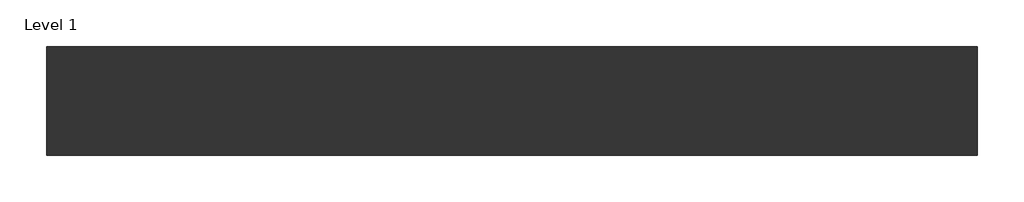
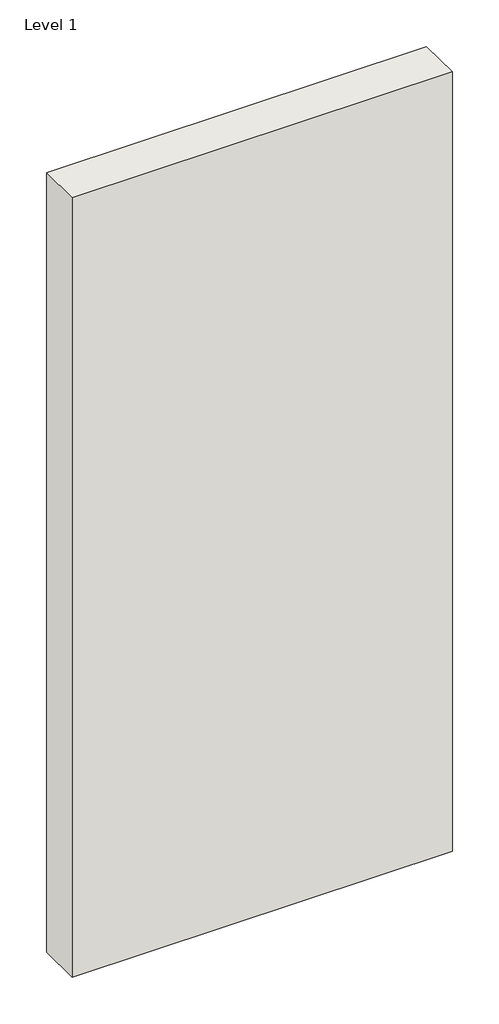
# One storey: 1 wall.
"""IFC4 building model written with IfcOpenShell, lengths in millimetres."""

from ifc_helpers import new_model, si_unit, origin, origin_with_axes, place, context, project, spatial, polyline, outline, extrude, element, save

model = new_model("IFC4")

# Units and contexts
model_context = context("Model", 3, world=origin())
ifc_project = project(units=[si_unit("LENGTHUNIT", "METRE", prefix="MILLI")], contexts=[model_context])

# Site, building, storey
site = spatial("IfcSite", under=ifc_project)
building = spatial("IfcBuilding", under=site)
storey = spatial("IfcBuildingStorey", under=building, Name="Level 1", Elevation=0.0)

# Wall
placement = place(None, origin())
element("IfcWall", 1, ObjectType="Tabique Simple – Placo® 140(90) 2xBA13 + 90LM + 2xBA13 c/600 - 54 dBA", at=placement, inside=storey, context=model_context, shape_type="SweptSolid", body=[
    extrude(outline(polyline([(-28676.4711674, -80335.3970389), (-29876.4711674, -80335.3970389), (-29876.4711674, -80195.3970389), (-28676.4711674, -80195.3970389), (-28676.4711674, -80335.3970389)])), origin_with_axes(), (0.0, 0.0, 1.0), 2600.0),
])

save(model, "model.ifc")
